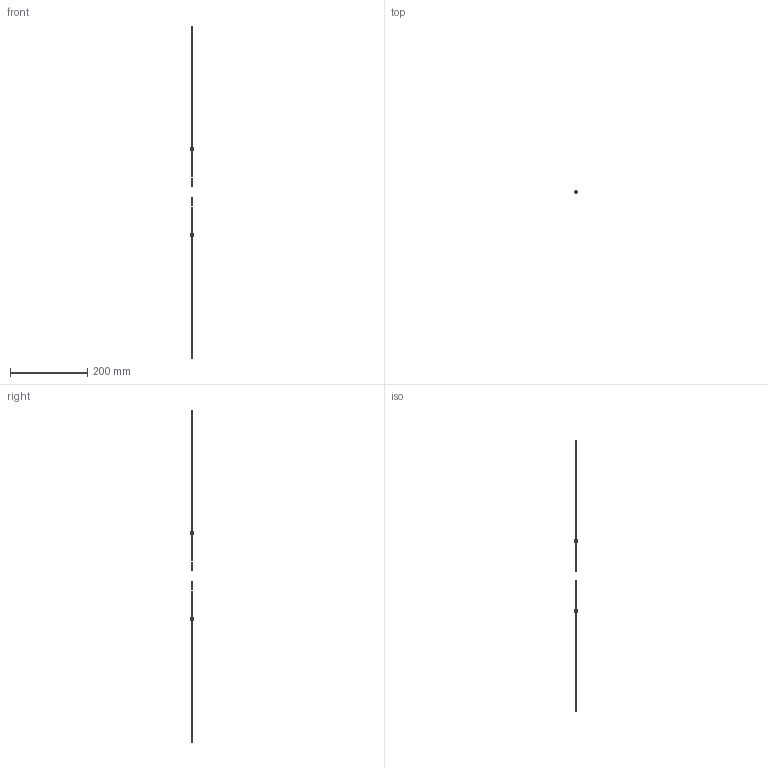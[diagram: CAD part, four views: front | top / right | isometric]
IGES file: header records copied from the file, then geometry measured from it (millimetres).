
Start section: SolidWorks IGES file using analytic representation for surfaces
Bounding box: 6.5 x 6.5 x 858 mm (x, y, z)
Surface area: 4334.5 mm2 (no closed solid volume)
Topology: 0 solids, 0 shells, 572 faces, 7318 edges, 7318 vertices
Faces by surface type: revolution 330, bspline 242
